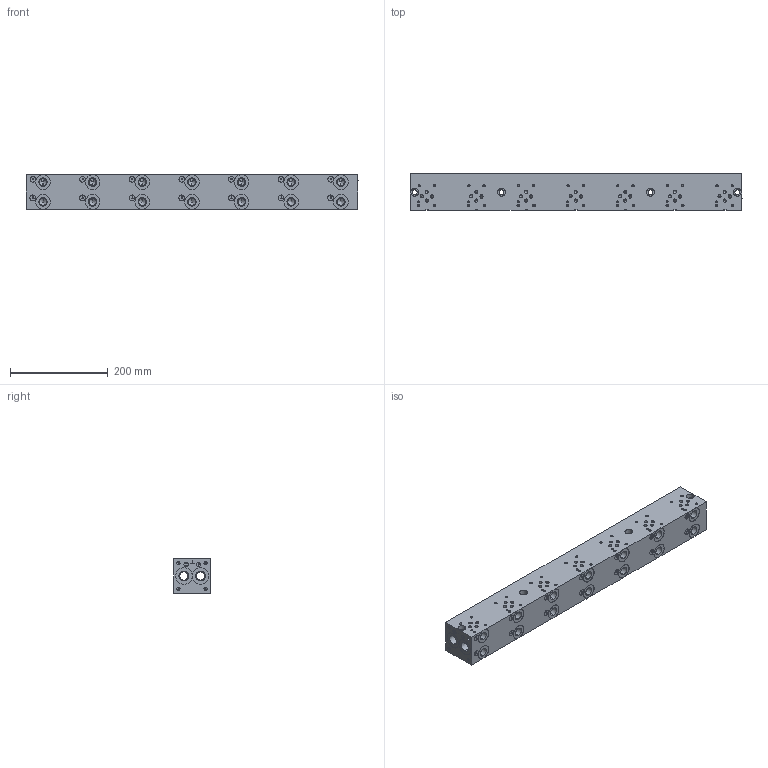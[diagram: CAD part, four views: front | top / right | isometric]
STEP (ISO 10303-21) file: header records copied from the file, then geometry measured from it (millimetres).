
FILE_DESCRIPTION (( 'STEP AP203' ), '1' );
FILE_NAME ('BM-ASP03S4-07-1_Z.STEP', '2015-01-06T15:44:08', ( '' ), ( '' ), 'SwSTEP 2.0', 'SolidWorks 2014', '' );
FILE_SCHEMA (( 'CONFIG_CONTROL_DESIGN' ));
Length unit declared in the file: inch
Products named in the file (1): BM-ASP03S4-07-1_Z
Bounding box: 679.45 x 74.93 x 69.85 mm (x, y, z)
Volume: 3112528.9 mm3; surface area: 330894.5 mm2
Topology: 1 solids, 1 shells, 918 faces, 2348 edges, 1440 vertices
Faces by surface type: cylinder 370, plane 310, cone 163, bspline 75
Entity records: 33157 total; most frequent: CARTESIAN_POINT 11688, ORIENTED_EDGE 4412, DIRECTION 4287, EDGE_CURVE 2206, AXIS2_PLACEMENT_3D 1561, VERTEX_POINT 1440, VECTOR 1165, LINE 1165
